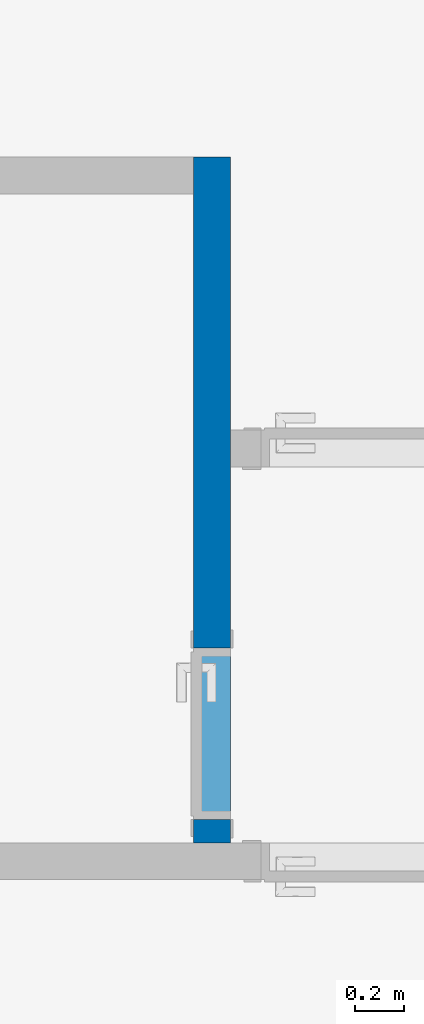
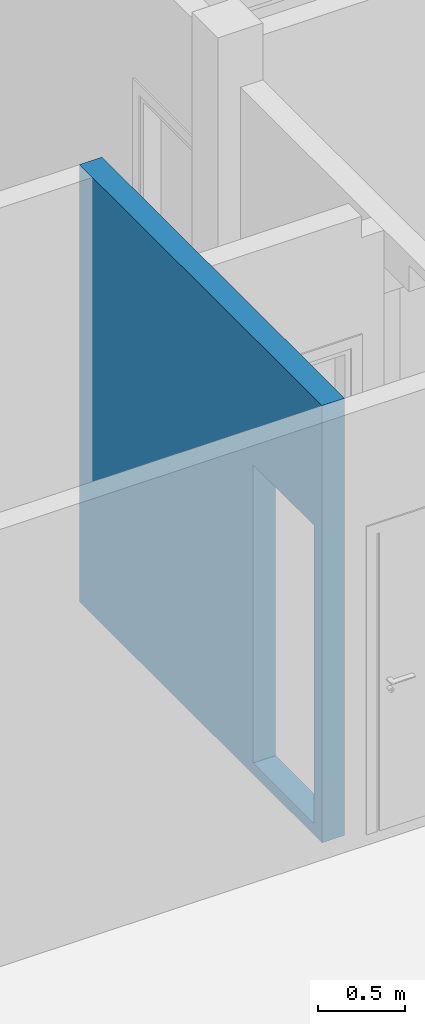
# One storey, part 3 of 11: 1 wall, 1 opening.
"""IFC2X3 building model written with IfcOpenShell, lengths in metres."""

from ifc_helpers import new_model, entity, si_unit, converted_unit, derived_unit, direction, frame, frame_2d, origin, place, context, subcontext, project, spatial, rectangle, extrude, material, layer, layer_set, layer_usage, type_object, element, save


model = new_model("IFC2X3")

# Units and contexts
model_context = context("Model", 3, precision=1e-05, world=origin(), true_north=direction((6.12303176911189e-17, 1.0)))
context_of_model = context(None, 3, precision=1e-05, world=origin(), true_north=direction((6.12303176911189e-17, 1.0)))
body_context = subcontext(model_context, "Body", "Model", "MODEL_VIEW")
ifc_project = project(units=[si_unit("LENGTHUNIT", "METRE"), si_unit("AREAUNIT", "SQUARE_METRE"), si_unit("VOLUMEUNIT", "CUBIC_METRE"), converted_unit("PLANEANGLEUNIT", "DEGREE", entity("IfcRatioMeasure", 0.0174532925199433), si_unit("PLANEANGLEUNIT", "RADIAN"), dimensions=[0, 0, 0, 0, 0, 0, 0]), si_unit("MASSUNIT", "GRAM", prefix="KILO"), si_unit("TIMEUNIT", "SECOND"), si_unit("FREQUENCYUNIT", "HERTZ"), si_unit("THERMODYNAMICTEMPERATUREUNIT", "DEGREE_CELSIUS"), derived_unit("THERMALTRANSMITTANCEUNIT", [(si_unit("MASSUNIT", "GRAM", prefix="KILO"), 1), (si_unit("THERMODYNAMICTEMPERATUREUNIT", "KELVIN"), -1), (si_unit("TIMEUNIT", "SECOND"), -3)]), derived_unit("VOLUMETRICFLOWRATEUNIT", [(si_unit("LENGTHUNIT", "METRE"), 3), (si_unit("TIMEUNIT", "SECOND"), -1)]), si_unit("ELECTRICCURRENTUNIT", "AMPERE"), si_unit("ELECTRICVOLTAGEUNIT", "VOLT"), si_unit("POWERUNIT", "WATT"), si_unit("FORCEUNIT", "NEWTON", prefix="KILO"), si_unit("ILLUMINANCEUNIT", "LUX"), si_unit("LUMINOUSFLUXUNIT", "LUMEN"), si_unit("LUMINOUSINTENSITYUNIT", "CANDELA"), si_unit("PRESSUREUNIT", "PASCAL")], contexts=[model_context, context_of_model])

# Site, building, storey
site_placement = place(None, origin())
site = spatial("IfcSite", under=ifc_project, at=site_placement, Name="Default", CompositionType="ELEMENT")
building_placement = place(site_placement, origin())
building = spatial("IfcBuilding", under=site, at=building_placement, CompositionType="ELEMENT")
storey_placement = place(building_placement, frame((0.0, 0.0, 3.45)))
storey = spatial("IfcBuildingStorey", under=building, at=storey_placement, Name="02.ES.PLANTA PRIMERA", CompositionType="ELEMENT", Elevation=3.45)

# Wall, opening
ifc_material = material(Name="Muro por defecto")
ifc_layer = layer(ifc_material, 0.15)
ifc_layer_set = layer_set([ifc_layer], Name="Muro básico:Por defecto - 15 cm")
ifc_layer_usage = layer_usage(ifc_layer_set, "AXIS2", "NEGATIVE", 0.075)
wall_type = type_object("IfcWallType", Name="Muro básico:Por defecto - 15 cm", PredefinedType="STANDARD", material=ifc_layer_set)
wall_placement = place(storey_placement, frame((7.84000000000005, 5.25506108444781, 0.0), z_axis=(0.0, 0.0, 1.0), x_axis=(0.0, 1.0, 0.0)))
wall = element("IfcWallStandardCase", 1, at=wall_placement, inside=storey, type_object=wall_type, material=ifc_layer_usage, Name="Muro básico:Por defecto - 15 cm", ObjectType="Muro básico:Por defecto - 15 cm", context=body_context, shape_type="SweptSolid", body=[
    extrude(rectangle(XDim=2.79999999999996, YDim=0.150000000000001, at=frame_2d((1.39999999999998, 0.0), x_axis=(-1.0, 0.0))), origin(), (0.0, 0.0, 1.0), 3.08),
])
opening_placement = place(wall_placement, frame((0.0949999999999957, -0.0750000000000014, 0.0799999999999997)))
element("IfcOpeningElement", 2, at=opening_placement, cuts=wall, Name="Puerta de 1 hoja:70 x 210 cm:1", ObjectType="Opening", context=body_context, shape_type="SweptSolid", body=[
    extrude(rectangle(XDim=2.09999999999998, YDim=0.7, at=frame_2d((1.04999999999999, 0.35), x_axis=(1.0, 0.0))), frame((0.0, 0.0, 0.0), z_axis=(0.0, 1.0, 0.0), x_axis=(0.0, 0.0, 1.0)), (0.0, 0.0, 1.0), 0.15),
])

save(model, "model.ifc")
